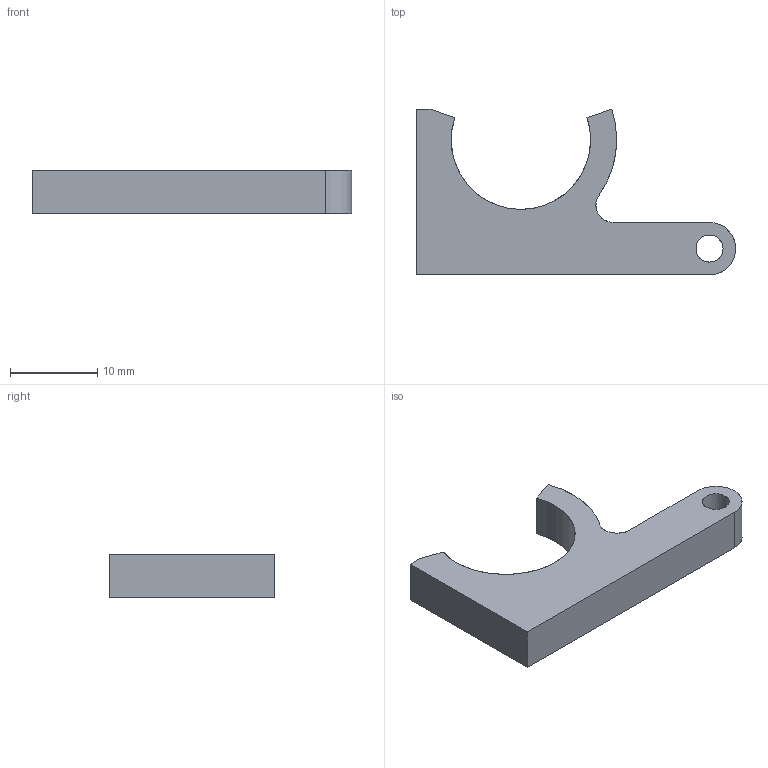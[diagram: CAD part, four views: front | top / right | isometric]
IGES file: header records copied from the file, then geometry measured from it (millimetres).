
Global section: file name: C:\Users\gehrichcr\Documents\1 Drive Backup\Practice\Inspire\V1.5\IGES\Clamp Angle Guide.igs; native system: NX V8.5; preprocessor: SIEMENS PLM Software NX 8.5; date: 20150619.121935; units: millimetre
Bounding box: 36.65 x 19 x 5 mm (x, y, z)
Surface area: 1354.1 mm2 (no closed solid volume)
Topology: 0 solids, 0 shells, 13 faces, 106 edges, 106 vertices
Faces by surface type: bspline 13
